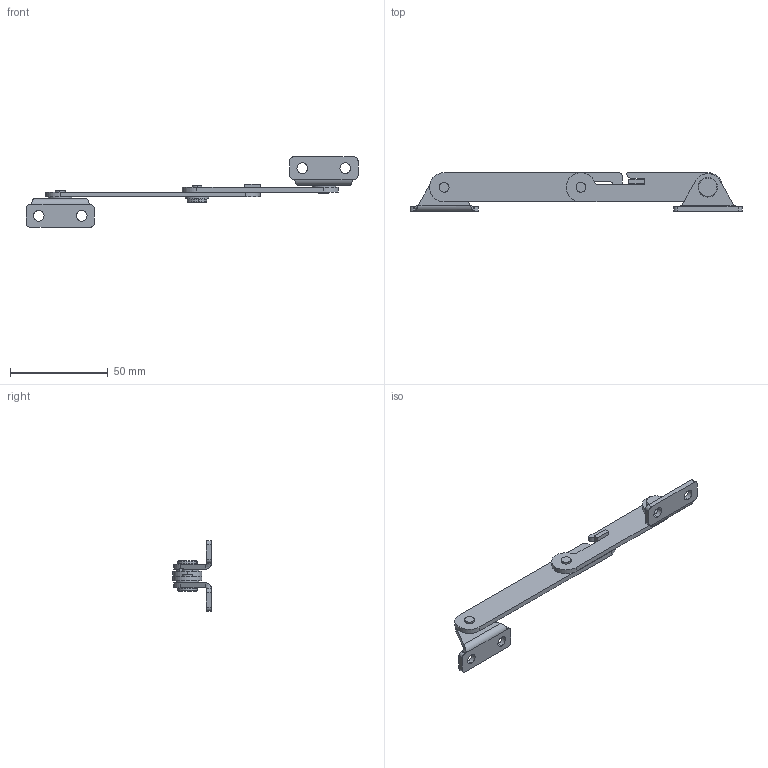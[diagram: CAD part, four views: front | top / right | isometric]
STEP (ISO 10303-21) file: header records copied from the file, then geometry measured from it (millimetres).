
FILE_DESCRIPTION (( 'STEP AP203' ), '1' );
FILE_NAME ('3SJ.TX91-3-Z.0001.STEP', '2020-03-17T05:07:03', ( 'China' ), ( 'User' ), 'SwSTEP 2.0', 'SolidWorks 2018', '' );
FILE_SCHEMA (( 'CONFIG_CONTROL_DESIGN' ));
Length unit declared in the file: millimetre
Products named in the file (6): TX91-3盓殤; TX91-3穩隊; SUS304-¡é6x12x1 GB.T 95-2002 3390900042; TX91-3-Z傅裝; 3SJ.TX91-3-Z.0001; TX91-3啊裝
Assembly tree (10 placements, depth 2):
  3SJ.TX91-3-Z.0001
    TX91-3-Z傅裝
    TX91-3啊裝
    TX91-3盓殤  x2
    TX91-3穩隊  x3
    SUS304-¡é6x12x1 GB.T 95-2002 3390900042  x3
Bounding box: 170 x 19.8 x 36 mm (x, y, z)
Volume: 10548.3 mm3; surface area: 11394.1 mm2
Topology: 10 solids, 10 shells, 155 faces, 357 edges, 228 vertices
Faces by surface type: cylinder 81, plane 64, cone 6, bspline 4
Entity records: 3568 total; most frequent: CARTESIAN_POINT 541, DIRECTION 512, ORIENTED_EDGE 444, EDGE_CURVE 222, AXIS2_PLACEMENT_3D 195, VERTEX_POINT 142, LINE 122, VECTOR 122
